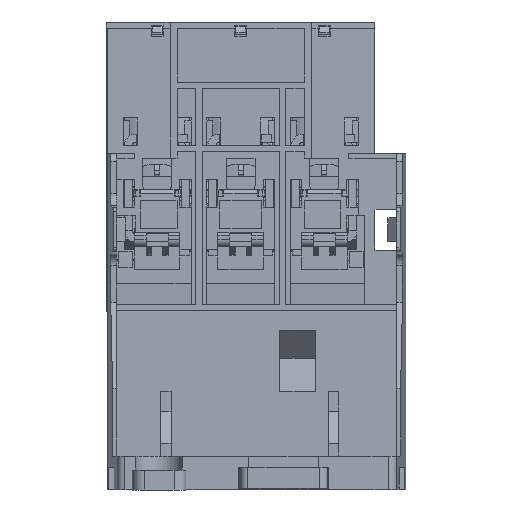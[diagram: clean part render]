
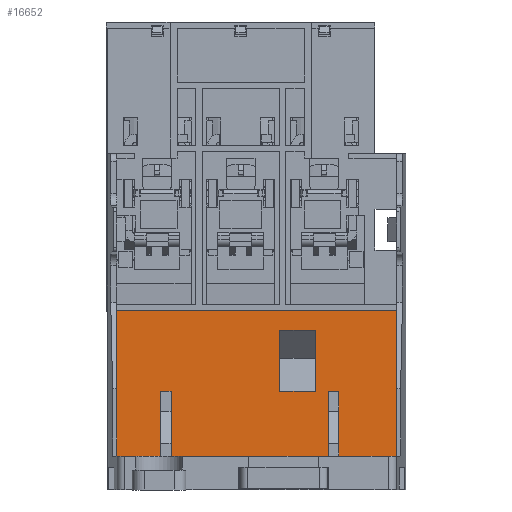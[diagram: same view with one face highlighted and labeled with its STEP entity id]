
A CAD part, front view. The second image highlights one B-rep face of the part: STEP entity #16652.
In plain terms, the highlighted planar face has unit normal (0, -1, 0) as drawn and (0, 0, 1) by its records, which use the part's own axes.
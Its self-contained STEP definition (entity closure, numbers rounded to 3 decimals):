
#823 = LINE ( 'NONE', #55461, #31116 ) ;
#1027 = ORIENTED_EDGE ( 'NONE', *, *, #56480, .T. ) ;
#1436 = VECTOR ( 'NONE', #36907, 1000. ) ;
#1673 = VERTEX_POINT ( 'NONE', #3425 ) ;
#2032 = CARTESIAN_POINT ( 'NONE',  ( -21.5, 0., -11.4 ) ) ;
#2254 = EDGE_CURVE ( 'NONE', #57100, #37558, #40183, .T. ) ;
#3425 = CARTESIAN_POINT ( 'NONE',  ( 20.7, 16.3, -11.4 ) ) ;
#4187 = VECTOR ( 'NONE', #39462, 1000. ) ;
#4311 = CARTESIAN_POINT ( 'NONE',  ( 14.8, 16.3, -11.4 ) ) ;
#4347 = EDGE_CURVE ( 'NONE', #28012, #63703, #11567, .T. ) ;
#4409 = CARTESIAN_POINT ( 'NONE',  ( 18.1, 0., -11.4 ) ) ;
#5698 = LINE ( 'NONE', #34995, #44610 ) ;
#6073 = DIRECTION ( 'NONE',  ( 0., 1., 0. ) ) ;
#7083 = DIRECTION ( 'NONE',  ( 1., 0., 0. ) ) ;
#7204 = CARTESIAN_POINT ( 'NONE',  ( 5.8, 31.679, -11.4 ) ) ;
#7241 = ORIENTED_EDGE ( 'NONE', *, *, #16716, .T. ) ;
#8679 = ORIENTED_EDGE ( 'NONE', *, *, #13828, .F. ) ;
#9323 = ORIENTED_EDGE ( 'NONE', *, *, #47726, .F. ) ;
#9988 = DIRECTION ( 'NONE',  ( 0., 1., 0. ) ) ;
#11567 = LINE ( 'NONE', #17479, #52336 ) ;
#12016 = CARTESIAN_POINT ( 'NONE',  ( -35.2, 0., -11.4 ) ) ;
#13657 = CARTESIAN_POINT ( 'NONE',  ( 20.7, 0., -11.4 ) ) ;
#13828 = EDGE_CURVE ( 'NONE', #1673, #29664, #53462, .T. ) ;
#14183 = CARTESIAN_POINT ( 'NONE',  ( 5.8, 16.3, -11.4 ) ) ;
#14315 = LINE ( 'NONE', #13657, #21492 ) ;
#14595 = LINE ( 'NONE', #15256, #17896 ) ;
#15176 = CARTESIAN_POINT ( 'NONE',  ( 5.8, 31.679, -11.4 ) ) ;
#15256 = CARTESIAN_POINT ( 'NONE',  ( 20.7, 0., -11.4 ) ) ;
#16652 = ADVANCED_FACE ( 'NONE', ( #45879, #40953 ), #21810, .T. ) ;
#16716 = EDGE_CURVE ( 'NONE', #58617, #43598, #42544, .T. ) ;
#16878 = DIRECTION ( 'NONE',  ( 1., 0., 0. ) ) ;
#17479 = CARTESIAN_POINT ( 'NONE',  ( -24.1, 0., -11.4 ) ) ;
#17896 = VECTOR ( 'NONE', #9988, 1000. ) ;
#18677 = VECTOR ( 'NONE', #35071, 1000. ) ;
#19252 = DIRECTION ( 'NONE',  ( -1., 0., 0. ) ) ;
#20038 = DIRECTION ( 'NONE',  ( -1., 0., 0. ) ) ;
#21492 = VECTOR ( 'NONE', #54140, 1000. ) ;
#21681 = ORIENTED_EDGE ( 'NONE', *, *, #38197, .F. ) ;
#21767 = VERTEX_POINT ( 'NONE', #14183 ) ;
#21810 = PLANE ( 'NONE',  #61610 ) ;
#22522 = VECTOR ( 'NONE', #7083, 1000. ) ;
#22552 = VERTEX_POINT ( 'NONE', #4409 ) ;
#23171 = VERTEX_POINT ( 'NONE', #36207 ) ;
#23642 = EDGE_CURVE ( 'NONE', #21767, #29234, #46003, .T. ) ;
#25025 = CARTESIAN_POINT ( 'NONE',  ( -21.5, 16.3, -11.4 ) ) ;
#25092 = CARTESIAN_POINT ( 'NONE',  ( 5.8, 31.679, -11.4 ) ) ;
#25117 = DIRECTION ( 'NONE',  ( 0., -1., 0. ) ) ;
#26436 = VERTEX_POINT ( 'NONE', #46411 ) ;
#26844 = LINE ( 'NONE', #12016, #22522 ) ;
#28012 = VERTEX_POINT ( 'NONE', #54625 ) ;
#28859 = VECTOR ( 'NONE', #51394, 1000. ) ;
#29110 = VECTOR ( 'NONE', #52400, 1000. ) ;
#29234 = VERTEX_POINT ( 'NONE', #4311 ) ;
#29664 = VERTEX_POINT ( 'NONE', #54809 ) ;
#29723 = ORIENTED_EDGE ( 'NONE', *, *, #62417, .F. ) ;
#30313 = EDGE_CURVE ( 'NONE', #26436, #43598, #51699, .T. ) ;
#31116 = VECTOR ( 'NONE', #6073, 1000. ) ;
#31299 = EDGE_CURVE ( 'NONE', #37558, #29234, #5698, .T. ) ;
#31446 = EDGE_CURVE ( 'NONE', #62462, #62172, #56022, .T. ) ;
#31466 = VECTOR ( 'NONE', #20038, 1000. ) ;
#32589 = VERTEX_POINT ( 'NONE', #49884 ) ;
#33957 = DIRECTION ( 'NONE',  ( 1., 0., 0. ) ) ;
#34516 = CARTESIAN_POINT ( 'NONE',  ( -24.1, 16.3, -11.4 ) ) ;
#34995 = CARTESIAN_POINT ( 'NONE',  ( 14.8, 31.679, -11.4 ) ) ;
#35071 = DIRECTION ( 'NONE',  ( 0., 1., 0. ) ) ;
#35104 = VECTOR ( 'NONE', #19252, 1000. ) ;
#36207 = CARTESIAN_POINT ( 'NONE',  ( -35.2, 0., -11.4 ) ) ;
#36767 = ORIENTED_EDGE ( 'NONE', *, *, #23642, .F. ) ;
#36907 = DIRECTION ( 'NONE',  ( 1., 0., 0. ) ) ;
#37558 = VERTEX_POINT ( 'NONE', #59927 ) ;
#38197 = EDGE_CURVE ( 'NONE', #32589, #1673, #14595, .T. ) ;
#38900 = EDGE_CURVE ( 'NONE', #57100, #21767, #42424, .T. ) ;
#39166 = EDGE_LOOP ( 'NONE', ( #29723, #1027, #62860, #9323, #48553, #63724, #40792, #8679, #21681, #54565, #7241, #64214 ) ) ;
#39462 = DIRECTION ( 'NONE',  ( 1., 0., 0. ) ) ;
#40173 = CARTESIAN_POINT ( 'NONE',  ( 35.2, 36.5, -11.4 ) ) ;
#40183 = LINE ( 'NONE', #15176, #40780 ) ;
#40780 = VECTOR ( 'NONE', #33957, 1000. ) ;
#40792 = ORIENTED_EDGE ( 'NONE', *, *, #60946, .T. ) ;
#40953 = FACE_OUTER_BOUND ( 'NONE', #39166, .T. ) ;
#41390 = DIRECTION ( 'NONE',  ( 1., 0., 0. ) ) ;
#42108 = DIRECTION ( 'NONE',  ( 0., -1., 0. ) ) ;
#42215 = CARTESIAN_POINT ( 'NONE',  ( -35.2, 0., -11.4 ) ) ;
#42343 = LINE ( 'NONE', #52212, #48754 ) ;
#42424 = LINE ( 'NONE', #7204, #46412 ) ;
#42544 = LINE ( 'NONE', #57689, #29110 ) ;
#43598 = VERTEX_POINT ( 'NONE', #40173 ) ;
#44393 = EDGE_CURVE ( 'NONE', #62462, #22552, #42343, .T. ) ;
#44610 = VECTOR ( 'NONE', #25117, 1000. ) ;
#44938 = CARTESIAN_POINT ( 'NONE',  ( -21.5, 0., -11.4 ) ) ;
#45879 = FACE_BOUND ( 'NONE', #47973, .T. ) ;
#46003 = LINE ( 'NONE', #55567, #4187 ) ;
#46411 = CARTESIAN_POINT ( 'NONE',  ( -35.2, 36.5, -11.4 ) ) ;
#46412 = VECTOR ( 'NONE', #42108, 1000. ) ;
#46775 = DIRECTION ( 'NONE',  ( 0., 1., 0. ) ) ;
#47108 = ORIENTED_EDGE ( 'NONE', *, *, #38900, .F. ) ;
#47726 = EDGE_CURVE ( 'NONE', #62172, #63703, #59537, .T. ) ;
#47973 = EDGE_LOOP ( 'NONE', ( #54955, #62677, #36767, #47108 ) ) ;
#48553 = ORIENTED_EDGE ( 'NONE', *, *, #31446, .F. ) ;
#48754 = VECTOR ( 'NONE', #41390, 1000. ) ;
#49884 = CARTESIAN_POINT ( 'NONE',  ( 20.7, 0., -11.4 ) ) ;
#50193 = CARTESIAN_POINT ( 'NONE',  ( -35.2, 0., -11.4 ) ) ;
#51394 = DIRECTION ( 'NONE',  ( 0., 1., 0. ) ) ;
#51699 = LINE ( 'NONE', #56337, #1436 ) ;
#52212 = CARTESIAN_POINT ( 'NONE',  ( -21.5, 0., -11.4 ) ) ;
#52336 = VECTOR ( 'NONE', #46775, 1000. ) ;
#52400 = DIRECTION ( 'NONE',  ( 0., 1., 0. ) ) ;
#53462 = LINE ( 'NONE', #64337, #35104 ) ;
#54140 = DIRECTION ( 'NONE',  ( 1., 0., 0. ) ) ;
#54565 = ORIENTED_EDGE ( 'NONE', *, *, #56507, .T. ) ;
#54625 = CARTESIAN_POINT ( 'NONE',  ( -24.1, 0., -11.4 ) ) ;
#54809 = CARTESIAN_POINT ( 'NONE',  ( 18.1, 16.3, -11.4 ) ) ;
#54955 = ORIENTED_EDGE ( 'NONE', *, *, #2254, .T. ) ;
#55461 = CARTESIAN_POINT ( 'NONE',  ( 18.1, 0., -11.4 ) ) ;
#55567 = CARTESIAN_POINT ( 'NONE',  ( 5.8, 16.3, -11.4 ) ) ;
#55686 = CARTESIAN_POINT ( 'NONE',  ( 35.2, 0., -11.4 ) ) ;
#56022 = LINE ( 'NONE', #2032, #28859 ) ;
#56337 = CARTESIAN_POINT ( 'NONE',  ( -35.2, 36.5, -11.4 ) ) ;
#56480 = EDGE_CURVE ( 'NONE', #23171, #28012, #26844, .T. ) ;
#56507 = EDGE_CURVE ( 'NONE', #32589, #58617, #14315, .T. ) ;
#57100 = VERTEX_POINT ( 'NONE', #25092 ) ;
#57689 = CARTESIAN_POINT ( 'NONE',  ( 35.2, 0., -11.4 ) ) ;
#58617 = VERTEX_POINT ( 'NONE', #55686 ) ;
#59210 = CARTESIAN_POINT ( 'NONE',  ( -21.5, 16.3, -11.4 ) ) ;
#59537 = LINE ( 'NONE', #59210, #31466 ) ;
#59927 = CARTESIAN_POINT ( 'NONE',  ( 14.8, 31.679, -11.4 ) ) ;
#60078 = LINE ( 'NONE', #50193, #18677 ) ;
#60946 = EDGE_CURVE ( 'NONE', #22552, #29664, #823, .T. ) ;
#61023 = DIRECTION ( 'NONE',  ( 0., 0., 1. ) ) ;
#61610 = AXIS2_PLACEMENT_3D ( 'NONE', #42215, #61023, #16878 ) ;
#62172 = VERTEX_POINT ( 'NONE', #25025 ) ;
#62417 = EDGE_CURVE ( 'NONE', #23171, #26436, #60078, .T. ) ;
#62462 = VERTEX_POINT ( 'NONE', #44938 ) ;
#62677 = ORIENTED_EDGE ( 'NONE', *, *, #31299, .T. ) ;
#62860 = ORIENTED_EDGE ( 'NONE', *, *, #4347, .T. ) ;
#63703 = VERTEX_POINT ( 'NONE', #34516 ) ;
#63724 = ORIENTED_EDGE ( 'NONE', *, *, #44393, .T. ) ;
#64214 = ORIENTED_EDGE ( 'NONE', *, *, #30313, .F. ) ;
#64337 = CARTESIAN_POINT ( 'NONE',  ( 20.7, 16.3, -11.4 ) ) ;
